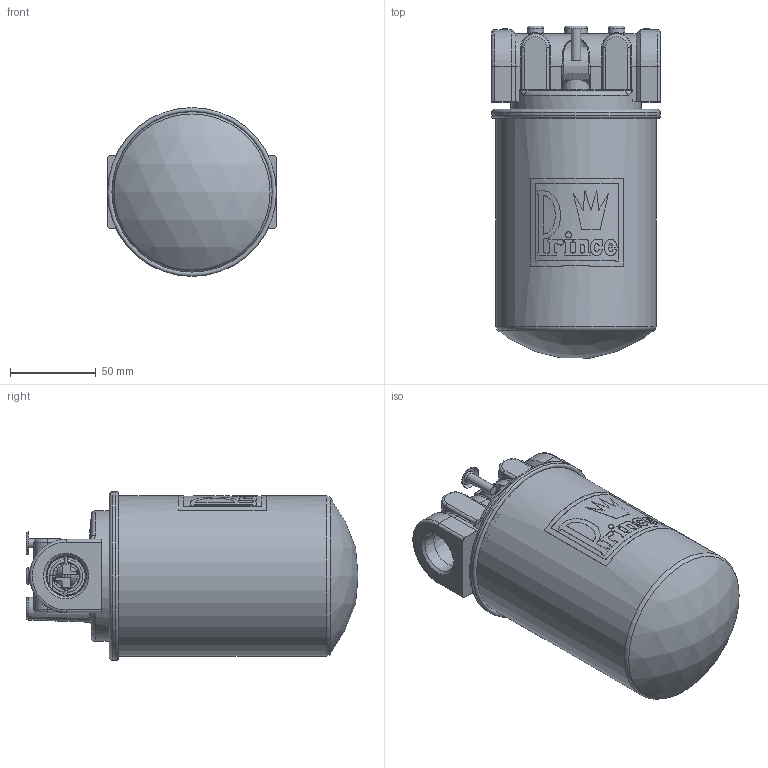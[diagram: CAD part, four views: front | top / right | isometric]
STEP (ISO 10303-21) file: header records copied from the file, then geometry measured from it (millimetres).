
FILE_DESCRIPTION((''),'2;1');
FILE_NAME('\\SRVR-ENG\EngSales\FA-1200-00.stp','2012-03-13T09:39:16',('KneiflD'),(''),'Autodesk Inventor 2012','Autodesk Inventor 2012','');
FILE_SCHEMA(('AUTOMOTIVE_DESIGN { 1 0 10303 214 1 1 1 1 }'));
Length unit declared in the file: inch
Products named in the file (7): FA-1200-00; 27000FA10; 27000FA10-Top; 270016000; 180900668; 230008505; FA FILTER
Assembly tree (6 placements, depth 2):
  FA-1200-00
    27000FA10
    27000FA10-Top
    270016000
    180900668
    230008505
    FA FILTER
Bounding box: 98.36 x 193.3 x 98.36 mm (x, y, z)
Volume: 569492.5 mm3; surface area: 201425.9 mm2
Topology: 6 solids, 7 shells, 876 faces, 2301 edges, 1471 vertices
Faces by surface type: plane 341, cylinder 339, bspline 88, torus 59, cone 27, sphere 22
Full cylindrical faces by diameter (mm): 0.884 x1, 1.499 x2, 3.373 x1, 3.962 x1, 5.334 x2, 9.525 x6, 9.652 x2, 15.24 x1, 18.237 x1, 22.225 x1, 23.317 x1, 25.146 x1, 27.127 x1, 28.448 x1, 38.1 x1, 44.958 x1, 61.959 x1, 62.23 x1, 72.119 x1, 72.136 x1, 74.036 x1, 76.2 x1, 88.9 x1, 89.98 x1, 91.694 x1, 91.897 x2, 93.218 x1, 93.258 x1, 95.148 x1, 95.175 x1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
Entity records: 45371 total; most frequent: CARTESIAN_POINT 24505, ORIENTED_EDGE 4376, DIRECTION 3969, EDGE_CURVE 2188, AXIS2_PLACEMENT_3D 1502, VERTEX_POINT 1446, EDGE_LOOP 1018, VECTOR 965
